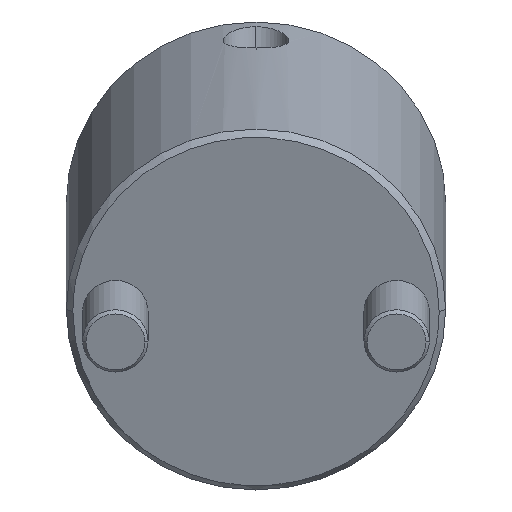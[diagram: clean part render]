
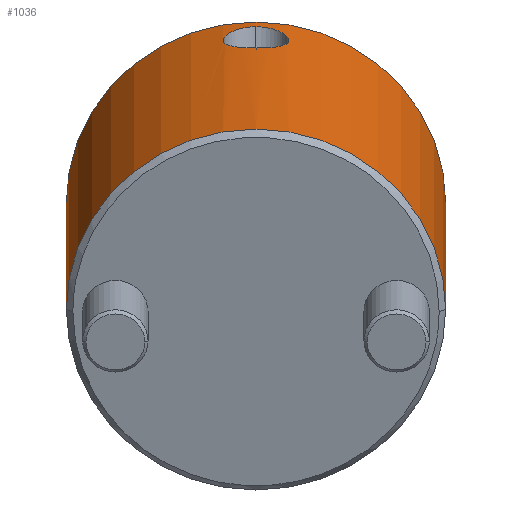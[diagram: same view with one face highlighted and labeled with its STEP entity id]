
A CAD part, front view. The second image highlights one B-rep face of the part: STEP entity #1036.
In plain terms, the highlighted cylindrical face has radius 29 mm (diameter 58 mm), a partial arc.
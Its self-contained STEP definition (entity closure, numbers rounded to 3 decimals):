
#772=CARTESIAN_POINT('Vertex',(0.,29.,1.)) ;
#775=CARTESIAN_POINT('Axis2P3D Location',(0.,0.,1.)) ;
#779=CARTESIAN_POINT('Vertex',(0.,-29.,1.)) ;
#931=CARTESIAN_POINT('Axis2P3D Location',(0.,0.,-2.75)) ;
#936=CARTESIAN_POINT('Line Origine',(0.,29.,-2.75)) ;
#940=CARTESIAN_POINT('Vertex',(0.,29.,54.)) ;
#943=CARTESIAN_POINT('Axis2P3D Location',(0.,0.,54.)) ;
#947=CARTESIAN_POINT('Vertex',(0.,-29.,54.)) ;
#950=CARTESIAN_POINT('Line Origine',(0.,-29.,-2.75)) ;
#962=CARTESIAN_POINT('Control Point',(29.,0.,51.652)) ;
#963=CARTESIAN_POINT('Control Point',(29.,0.413,51.652)) ;
#964=CARTESIAN_POINT('Control Point',(28.993,0.825,51.605)) ;
#965=CARTESIAN_POINT('Control Point',(28.978,1.237,51.509)) ;
#966=CARTESIAN_POINT('Control Point',(28.94,1.937,51.261)) ;
#967=CARTESIAN_POINT('Control Point',(28.886,2.588,50.874)) ;
#968=CARTESIAN_POINT('Control Point',(28.861,2.857,50.684)) ;
#969=CARTESIAN_POINT('Control Point',(28.797,3.455,50.181)) ;
#970=CARTESIAN_POINT('Control Point',(28.73,3.965,49.559)) ;
#971=CARTESIAN_POINT('Control Point',(28.693,4.218,49.174)) ;
#972=CARTESIAN_POINT('Control Point',(28.643,4.54,48.551)) ;
#973=CARTESIAN_POINT('Control Point',(28.607,4.762,47.896)) ;
#974=CARTESIAN_POINT('Control Point',(28.596,4.824,47.674)) ;
#975=CARTESIAN_POINT('Control Point',(28.574,4.952,47.114)) ;
#976=CARTESIAN_POINT('Control Point',(28.564,5.009,46.539)) ;
#977=CARTESIAN_POINT('Control Point',(28.563,5.016,46.194)) ;
#978=CARTESIAN_POINT('Control Point',(28.57,4.976,45.511)) ;
#979=CARTESIAN_POINT('Control Point',(28.595,4.833,44.852)) ;
#980=CARTESIAN_POINT('Control Point',(28.611,4.737,44.534)) ;
#981=CARTESIAN_POINT('Control Point',(28.657,4.455,43.814)) ;
#982=CARTESIAN_POINT('Control Point',(28.718,4.046,43.164)) ;
#983=CARTESIAN_POINT('Control Point',(28.756,3.772,42.82)) ;
#984=CARTESIAN_POINT('Control Point',(28.854,2.985,42.027)) ;
#985=CARTESIAN_POINT('Control Point',(28.941,2.003,41.48)) ;
#986=CARTESIAN_POINT('Control Point',(28.98,1.347,41.25)) ;
#987=CARTESIAN_POINT('Control Point',(29.,0.678,41.137)) ;
#988=CARTESIAN_POINT('Control Point',(29.,0.,41.137)) ;
#989=CARTESIAN_POINT('Vertex',(29.,0.,51.652)) ;
#991=CARTESIAN_POINT('Vertex',(29.,0.,41.137)) ;
#995=CARTESIAN_POINT('Control Point',(29.,0.,41.137)) ;
#996=CARTESIAN_POINT('Control Point',(29.,-0.219,41.137)) ;
#997=CARTESIAN_POINT('Control Point',(28.998,-0.436,41.149)) ;
#998=CARTESIAN_POINT('Control Point',(28.994,-0.652,41.172)) ;
#999=CARTESIAN_POINT('Control Point',(28.979,-1.19,41.261)) ;
#1000=CARTESIAN_POINT('Control Point',(28.952,-1.712,41.421)) ;
#1001=CARTESIAN_POINT('Control Point',(28.932,-2.014,41.542)) ;
#1002=CARTESIAN_POINT('Control Point',(28.879,-2.697,41.883)) ;
#1003=CARTESIAN_POINT('Control Point',(28.814,-3.304,42.348)) ;
#1004=CARTESIAN_POINT('Control Point',(28.775,-3.622,42.654)) ;
#1005=CARTESIAN_POINT('Control Point',(28.718,-4.042,43.158)) ;
#1006=CARTESIAN_POINT('Control Point',(28.669,-4.373,43.723)) ;
#1007=CARTESIAN_POINT('Control Point',(28.653,-4.474,43.919)) ;
#1008=CARTESIAN_POINT('Control Point',(28.624,-4.655,44.321)) ;
#1009=CARTESIAN_POINT('Control Point',(28.601,-4.793,44.742)) ;
#1010=CARTESIAN_POINT('Control Point',(28.592,-4.851,44.956)) ;
#1011=CARTESIAN_POINT('Control Point',(28.572,-4.967,45.504)) ;
#1012=CARTESIAN_POINT('Control Point',(28.563,-5.013,46.071)) ;
#1013=CARTESIAN_POINT('Control Point',(28.563,-5.014,46.416)) ;
#1014=CARTESIAN_POINT('Control Point',(28.571,-4.969,46.991)) ;
#1015=CARTESIAN_POINT('Control Point',(28.591,-4.854,47.554)) ;
#1016=CARTESIAN_POINT('Control Point',(28.601,-4.796,47.778)) ;
#1017=CARTESIAN_POINT('Control Point',(28.624,-4.657,48.219)) ;
#1018=CARTESIAN_POINT('Control Point',(28.653,-4.474,48.646)) ;
#1019=CARTESIAN_POINT('Control Point',(28.669,-4.371,48.855)) ;
#1020=CARTESIAN_POINT('Control Point',(28.703,-4.146,49.259)) ;
#1021=CARTESIAN_POINT('Control Point',(28.74,-3.881,49.636)) ;
#1022=CARTESIAN_POINT('Control Point',(28.758,-3.741,49.815)) ;
#1023=CARTESIAN_POINT('Control Point',(28.815,-3.296,50.326)) ;
#1024=CARTESIAN_POINT('Control Point',(28.869,-2.784,50.754)) ;
#1025=CARTESIAN_POINT('Control Point',(28.903,-2.418,50.997)) ;
#1026=CARTESIAN_POINT('Control Point',(28.954,-1.729,51.353)) ;
#1027=CARTESIAN_POINT('Control Point',(28.986,-0.994,51.56)) ;
#1028=CARTESIAN_POINT('Control Point',(28.995,-0.662,51.622)) ;
#1029=CARTESIAN_POINT('Control Point',(29.,-0.331,51.652)) ;
#1030=CARTESIAN_POINT('Control Point',(29.,0.,51.652)) ;
#776=DIRECTION('Axis2P3D Direction',(0.,0.,1.)) ;
#932=DIRECTION('Axis2P3D Direction',(0.,-0.,1.)) ;
#933=DIRECTION('Axis2P3D XDirection',(0.,-1.,0.)) ;
#937=DIRECTION('Vector Direction',(0.,0.,1.)) ;
#944=DIRECTION('Axis2P3D Direction',(0.,-0.,1.)) ;
#951=DIRECTION('Vector Direction',(0.,0.,1.)) ;
#777=AXIS2_PLACEMENT_3D('Circle Axis2P3D',#775,#776,$) ;
#934=AXIS2_PLACEMENT_3D('Cylinder Axis2P3D',#931,#932,#933) ;
#945=AXIS2_PLACEMENT_3D('Circle Axis2P3D',#943,#944,$) ;
#956=ORIENTED_EDGE('',*,*,#942,.F.) ;
#957=ORIENTED_EDGE('',*,*,#949,.T.) ;
#958=ORIENTED_EDGE('',*,*,#954,.T.) ;
#959=ORIENTED_EDGE('',*,*,#781,.F.) ;
#1033=ORIENTED_EDGE('',*,*,#993,.T.) ;
#1034=ORIENTED_EDGE('',*,*,#1031,.T.) ;
#1035=FACE_BOUND('',#1032,.T.) ;
#938=VECTOR('Line Direction',#937,1.) ;
#952=VECTOR('Line Direction',#951,1.) ;
#1036=ADVANCED_FACE('MANIFOLD_SOLID_BREP #1146',(#960,#1035),#935,.T.) ;
#961=B_SPLINE_CURVE_WITH_KNOTS('',5,(#962,#963,#964,#965,#966,#967,#968,#969,#970,#971,#972,#973,#974,#975,#976,#977,#978,#979,#980,#981,#982,#983,#984,#985,#986,#987,#988),.UNSPECIFIED.,.F.,.U.,(6,3,3,3,3,3,3,3,6),(0.,3.077,5.417,8.587,10.186,12.541,14.89,18.015,22.852),.UNSPECIFIED.) ;
#994=B_SPLINE_CURVE_WITH_KNOTS('',5,(#995,#996,#997,#998,#999,#1000,#1001,#1002,#1003,#1004,#1005,#1006,#1007,#1008,#1009,#1010,#1011,#1012,#1013,#1014,#1015,#1016,#1017,#1018,#1019,#1020,#1021,#1022,#1023,#1024,#1025,#1026,#1027,#1028,#1029,#1030),.UNSPECIFIED.,.F.,.U.,(6,3,3,3,3,3,3,3,3,3,3,6),(0.,1.559,3.899,7.014,8.581,10.147,12.5,14.096,15.686,17.262,20.379,22.847),.UNSPECIFIED.) ;
#778=CIRCLE('generated circle',#777,29.) ;
#946=CIRCLE('generated circle',#945,29.) ;
#935=CYLINDRICAL_SURFACE('generated cylinder',#934,29.) ;
#781=EDGE_CURVE('',#773,#780,#778,.F.) ;
#942=EDGE_CURVE('',#941,#773,#939,.F.) ;
#949=EDGE_CURVE('',#941,#948,#946,.F.) ;
#954=EDGE_CURVE('',#948,#780,#953,.F.) ;
#993=EDGE_CURVE('',#990,#992,#961,.T.) ;
#1031=EDGE_CURVE('',#992,#990,#994,.T.) ;
#955=EDGE_LOOP('',(#956,#957,#958,#959)) ;
#1032=EDGE_LOOP('',(#1033,#1034)) ;
#960=FACE_OUTER_BOUND('',#955,.T.) ;
#939=LINE('Line',#936,#938) ;
#953=LINE('Line',#950,#952) ;
#773=VERTEX_POINT('',#772) ;
#780=VERTEX_POINT('',#779) ;
#941=VERTEX_POINT('',#940) ;
#948=VERTEX_POINT('',#947) ;
#990=VERTEX_POINT('',#989) ;
#992=VERTEX_POINT('',#991) ;
